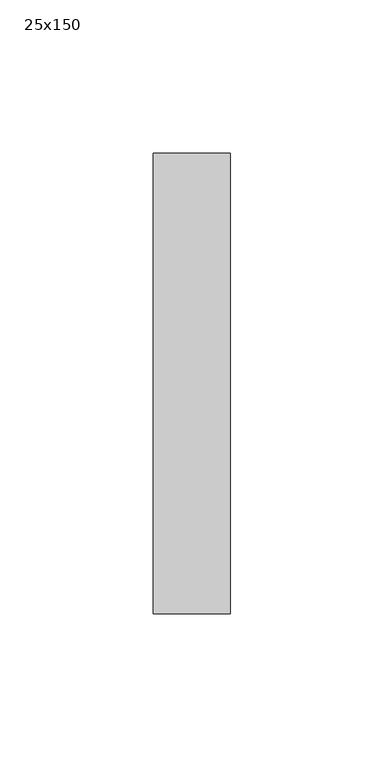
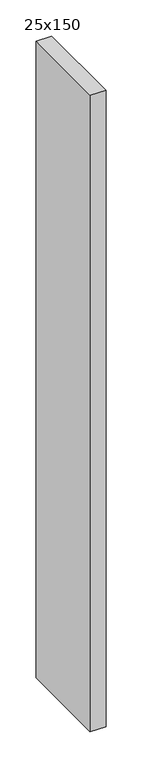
"""IFC4 building model written with IfcOpenShell, lengths in millimetres: member geometry, 長方形のマリオン : 25x150."""

from ifc_helpers import new_model, si_unit, frame, origin, place, context, project, spatial, polyline, outline, extrude, source, transform, mapped, element, save


def member_25x150_3f8205e2(model_context):
    return source(origin(), model_context, "Body", "SweptSolid", [
        extrude(outline(polyline([(0.0, 75.0), (0.0, -75.0), (-25.0, -75.0), (-25.0, 75.0), (0.0, 75.0)])), frame((0.0, 0.0, -1075.0), z_axis=(0.0, 0.0, 1.0), x_axis=(1.0, 0.0, 0.0)), (0.0, 0.0, 1.0), 1075.0),
    ])


if __name__ == "__main__":
    model = new_model("IFC4")
    model_context = context("Model", 3, world=origin())
    ifc_project = project(units=[si_unit("LENGTHUNIT", "METRE", prefix="MILLI")], contexts=[model_context])
    site = spatial("IfcSite", under=ifc_project)
    building = spatial("IfcBuilding", under=site)
    placement = place(None, origin())
    member_25x150_shape = member_25x150_3f8205e2(model_context)
    element("IfcMember", 1, ObjectType="長方形のマリオン : 25x150", at=placement, inside=building, context=model_context, shape_type="MappedRepresentation", body=[
        mapped(member_25x150_shape, transform((0.0, 0.0, 0.0), x_axis=(1.0, 0.0, 0.0), y_axis=(0.0, 1.0, 0.0), z_axis=(0.0, 0.0, 1.0))),
    ])
    save(model, "model.ifc")
